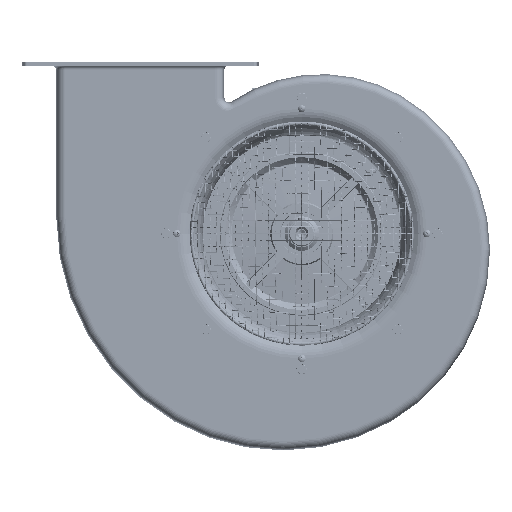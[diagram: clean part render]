
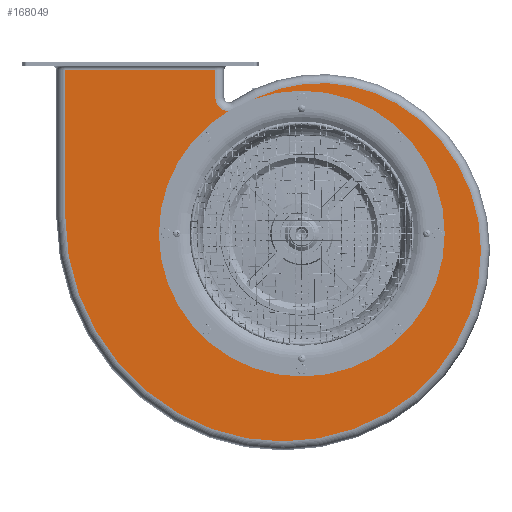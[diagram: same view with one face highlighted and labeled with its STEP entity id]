
A CAD part, left-side view. The second image highlights one B-rep face of the part: STEP entity #168049.
In plain terms, the highlighted planar face has unit normal (-1, 0, 0).
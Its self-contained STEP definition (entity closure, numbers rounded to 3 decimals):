
#4305=LINE('',#236460,#15487);
#4311=LINE('',#236478,#15493);
#4312=LINE('',#236482,#15494);
#15487=VECTOR('',#193508,16.49);
#15493=VECTOR('',#193528,3.073);
#15494=VECTOR('',#193533,16.178);
#31811=PLANE('',#177425);
#35771=FACE_BOUND('',#48343,.T.);
#35772=FACE_BOUND('',#48344,.T.);
#35773=FACE_BOUND('',#48345,.T.);
#35774=FACE_BOUND('',#48346,.T.);
#35775=FACE_BOUND('',#48347,.T.);
#35776=FACE_BOUND('',#48348,.T.);
#35777=FACE_BOUND('',#48349,.T.);
#35778=FACE_BOUND('',#48350,.T.);
#35779=FACE_BOUND('',#48351,.T.);
#39104=FACE_OUTER_BOUND('',#48342,.T.);
#48342=EDGE_LOOP('',(#107781,#107782,#107783,#107784,#107785,#107786,#107787,
#107788,#107789));
#48343=EDGE_LOOP('',(#107790));
#48344=EDGE_LOOP('',(#107791));
#48345=EDGE_LOOP('',(#107792));
#48346=EDGE_LOOP('',(#107793));
#48347=EDGE_LOOP('',(#107794));
#48348=EDGE_LOOP('',(#107795));
#48349=EDGE_LOOP('',(#107796));
#48350=EDGE_LOOP('',(#107797));
#48351=EDGE_LOOP('',(#107798));
#60779=CIRCLE('',#177354,0.246);
#60781=CIRCLE('',#177357,0.246);
#60783=CIRCLE('',#177360,0.246);
#60785=CIRCLE('',#177363,0.246);
#60787=CIRCLE('',#177366,0.246);
#60789=CIRCLE('',#177369,0.246);
#60791=CIRCLE('',#177372,0.246);
#60793=CIRCLE('',#177375,0.246);
#60807=CIRCLE('',#177392,14.2);
#60826=CIRCLE('',#177426,24.93);
#60827=CIRCLE('',#177427,22.83);
#60828=CIRCLE('',#177428,20.734);
#60829=CIRCLE('',#177429,18.63);
#60830=CIRCLE('',#177430,16.524);
#60831=CIRCLE('',#177431,1.49);
#67223=VERTEX_POINT('',#236331);
#67225=VERTEX_POINT('',#236336);
#67227=VERTEX_POINT('',#236341);
#67229=VERTEX_POINT('',#236346);
#67231=VERTEX_POINT('',#236351);
#67233=VERTEX_POINT('',#236356);
#67235=VERTEX_POINT('',#236361);
#67237=VERTEX_POINT('',#236366);
#67257=VERTEX_POINT('',#236409);
#67271=VERTEX_POINT('',#236450);
#67273=VERTEX_POINT('',#236456);
#67279=VERTEX_POINT('',#236477);
#67280=VERTEX_POINT('',#236481);
#67281=VERTEX_POINT('',#236483);
#67282=VERTEX_POINT('',#236485);
#67283=VERTEX_POINT('',#236487);
#67284=VERTEX_POINT('',#236489);
#67285=VERTEX_POINT('',#236491);
#83363=EDGE_CURVE('',#67223,#67223,#60779,.T.);
#83365=EDGE_CURVE('',#67225,#67225,#60781,.T.);
#83367=EDGE_CURVE('',#67227,#67227,#60783,.T.);
#83369=EDGE_CURVE('',#67229,#67229,#60785,.T.);
#83371=EDGE_CURVE('',#67231,#67231,#60787,.T.);
#83373=EDGE_CURVE('',#67233,#67233,#60789,.T.);
#83375=EDGE_CURVE('',#67235,#67235,#60791,.T.);
#83377=EDGE_CURVE('',#67237,#67237,#60793,.T.);
#83397=EDGE_CURVE('',#67257,#67257,#60807,.T.);
#83422=EDGE_CURVE('',#67271,#67273,#4305,.T.);
#83431=EDGE_CURVE('',#67273,#67279,#4311,.T.);
#83433=EDGE_CURVE('',#67280,#67271,#4312,.T.);
#83434=EDGE_CURVE('',#67281,#67280,#60826,.T.);
#83435=EDGE_CURVE('',#67282,#67281,#60827,.T.);
#83436=EDGE_CURVE('',#67283,#67282,#60828,.T.);
#83437=EDGE_CURVE('',#67284,#67283,#60829,.T.);
#83438=EDGE_CURVE('',#67285,#67284,#60830,.T.);
#83439=EDGE_CURVE('',#67279,#67285,#60831,.T.);
#107781=ORIENTED_EDGE('',*,*,#83422,.F.);
#107782=ORIENTED_EDGE('',*,*,#83433,.F.);
#107783=ORIENTED_EDGE('',*,*,#83434,.F.);
#107784=ORIENTED_EDGE('',*,*,#83435,.F.);
#107785=ORIENTED_EDGE('',*,*,#83436,.F.);
#107786=ORIENTED_EDGE('',*,*,#83437,.F.);
#107787=ORIENTED_EDGE('',*,*,#83438,.F.);
#107788=ORIENTED_EDGE('',*,*,#83439,.F.);
#107789=ORIENTED_EDGE('',*,*,#83431,.F.);
#107790=ORIENTED_EDGE('',*,*,#83363,.T.);
#107791=ORIENTED_EDGE('',*,*,#83365,.T.);
#107792=ORIENTED_EDGE('',*,*,#83367,.T.);
#107793=ORIENTED_EDGE('',*,*,#83369,.T.);
#107794=ORIENTED_EDGE('',*,*,#83371,.T.);
#107795=ORIENTED_EDGE('',*,*,#83373,.T.);
#107796=ORIENTED_EDGE('',*,*,#83375,.T.);
#107797=ORIENTED_EDGE('',*,*,#83377,.T.);
#107798=ORIENTED_EDGE('',*,*,#83397,.T.);
#168049=ADVANCED_FACE('',(#39104,#35771,#35772,#35773,#35774,#35775,#35776,
#35777,#35778,#35779),#31811,.F.);
#177354=AXIS2_PLACEMENT_3D('',#236332,#193368,#193369);
#177357=AXIS2_PLACEMENT_3D('',#236337,#193374,#193375);
#177360=AXIS2_PLACEMENT_3D('',#236342,#193380,#193381);
#177363=AXIS2_PLACEMENT_3D('',#236347,#193386,#193387);
#177366=AXIS2_PLACEMENT_3D('',#236352,#193392,#193393);
#177369=AXIS2_PLACEMENT_3D('',#236357,#193398,#193399);
#177372=AXIS2_PLACEMENT_3D('',#236362,#193404,#193405);
#177375=AXIS2_PLACEMENT_3D('',#236367,#193410,#193411);
#177392=AXIS2_PLACEMENT_3D('',#236410,#193450,#193451);
#177425=AXIS2_PLACEMENT_3D('',#236480,#193531,#193532);
#177426=AXIS2_PLACEMENT_3D('',#236484,#193534,#193535);
#177427=AXIS2_PLACEMENT_3D('',#236486,#193536,#193537);
#177428=AXIS2_PLACEMENT_3D('',#236488,#193538,#193539);
#177429=AXIS2_PLACEMENT_3D('',#236490,#193540,#193541);
#177430=AXIS2_PLACEMENT_3D('',#236492,#193542,#193543);
#177431=AXIS2_PLACEMENT_3D('',#236493,#193544,#193545);
#193368=DIRECTION('center_axis',(1.,0.,0.));
#193369=DIRECTION('ref_axis',(0.,0.,
1.));
#193374=DIRECTION('center_axis',(1.,0.,0.));
#193375=DIRECTION('ref_axis',(0.,0.,
1.));
#193380=DIRECTION('center_axis',(1.,0.,0.));
#193381=DIRECTION('ref_axis',(0.,0.,
1.));
#193386=DIRECTION('center_axis',(1.,0.,0.));
#193387=DIRECTION('ref_axis',(0.,0.,
1.));
#193392=DIRECTION('center_axis',(1.,0.,0.));
#193393=DIRECTION('ref_axis',(0.,0.,
1.));
#193398=DIRECTION('center_axis',(1.,0.,0.));
#193399=DIRECTION('ref_axis',(0.,0.,
1.));
#193404=DIRECTION('center_axis',(1.,0.,0.));
#193405=DIRECTION('ref_axis',(0.,0.,
1.));
#193410=DIRECTION('center_axis',(1.,0.,0.));
#193411=DIRECTION('ref_axis',(0.,0.,
1.));
#193450=DIRECTION('center_axis',(1.,0.,0.));
#193451=DIRECTION('ref_axis',(0.,0.,
1.));
#193508=DIRECTION('',(0.,-1.,0.));
#193528=DIRECTION('',(0.,0.,-1.));
#193531=DIRECTION('center_axis',(1.,0.,0.));
#193532=DIRECTION('ref_axis',(0.,0.,-1.));
#193533=DIRECTION('',(0.,0.,1.));
#193534=DIRECTION('center_axis',(1.,0.,0.));
#193535=DIRECTION('ref_axis',(0.,0.866,-0.5));
#193536=DIRECTION('center_axis',(1.,0.,0.));
#193537=DIRECTION('ref_axis',(0.,0.,
-1.));
#193538=DIRECTION('center_axis',(1.,0.,0.));
#193539=DIRECTION('ref_axis',(0.,-0.866,-0.5));
#193540=DIRECTION('center_axis',(1.,0.,0.));
#193541=DIRECTION('ref_axis',(0.,-0.866,0.5));
#193542=DIRECTION('center_axis',(1.,0.,0.));
#193543=DIRECTION('ref_axis',(0.,0.036,
0.999));
#193544=DIRECTION('center_axis',(-1.,0.,0.));
#193545=DIRECTION('ref_axis',(0.,0.469,-0.883));
#236331=CARTESIAN_POINT('',(-36.05,10.536,10.782));
#236332=CARTESIAN_POINT('Origin',(-36.05,10.536,10.536));
#236336=CARTESIAN_POINT('',(-36.05,0.,15.146));
#236337=CARTESIAN_POINT('Origin',(-36.05,0.,14.9));
#236341=CARTESIAN_POINT('',(-36.05,-10.536,10.782));
#236342=CARTESIAN_POINT('Origin',(-36.05,-10.536,10.536));
#236346=CARTESIAN_POINT('',(-36.05,-14.9,0.246));
#236347=CARTESIAN_POINT('Origin',(-36.05,-14.9,0.));
#236351=CARTESIAN_POINT('',(-36.05,-10.536,-10.29));
#236352=CARTESIAN_POINT('Origin',(-36.05,-10.536,-10.536));
#236356=CARTESIAN_POINT('',(-36.05,0.,-14.654));
#236357=CARTESIAN_POINT('Origin',(-36.05,0.,-14.9));
#236361=CARTESIAN_POINT('',(-36.05,10.536,-10.29));
#236362=CARTESIAN_POINT('Origin',(-36.05,10.536,-10.536));
#236366=CARTESIAN_POINT('',(-36.05,14.9,0.246));
#236367=CARTESIAN_POINT('Origin',(-36.05,14.9,0.));
#236409=CARTESIAN_POINT('',(-36.05,0.,14.2));
#236410=CARTESIAN_POINT('Origin',(-36.05,0.,0.));
#236450=CARTESIAN_POINT('',(-36.05,25.98,17.997));
#236456=CARTESIAN_POINT('',(-36.05,9.49,17.997));
#236460=CARTESIAN_POINT('',(-36.05,11.158,17.997));
#236477=CARTESIAN_POINT('',(-36.05,9.49,14.923));
#236478=CARTESIAN_POINT('',(-36.05,9.49,8.991));
#236480=CARTESIAN_POINT('Origin',(-36.05,4.58,-0.415));
#236481=CARTESIAN_POINT('',(-36.05,25.98,1.819));
#236482=CARTESIAN_POINT('',(-36.05,25.98,0.702));
#236483=CARTESIAN_POINT('',(-36.05,13.515,-19.771));
#236484=CARTESIAN_POINT('Origin',(-36.05,1.05,1.819));
#236485=CARTESIAN_POINT('',(-36.05,-9.315,-19.771));
#236486=CARTESIAN_POINT('Origin',(-36.05,2.1,0.));
#236487=CARTESIAN_POINT('',(-36.05,-19.68,-1.819));
#236488=CARTESIAN_POINT('Origin',(-36.05,1.054,-1.816));
#236489=CARTESIAN_POINT('',(-36.05,-10.365,14.315));
#236490=CARTESIAN_POINT('Origin',(-36.05,-1.05,-1.819));
#236491=CARTESIAN_POINT('',(-36.05,7.164,13.69));
#236492=CARTESIAN_POINT('Origin',(-36.05,-2.1,0.007));
#236493=CARTESIAN_POINT('Origin',(-36.05,8.,14.923));
